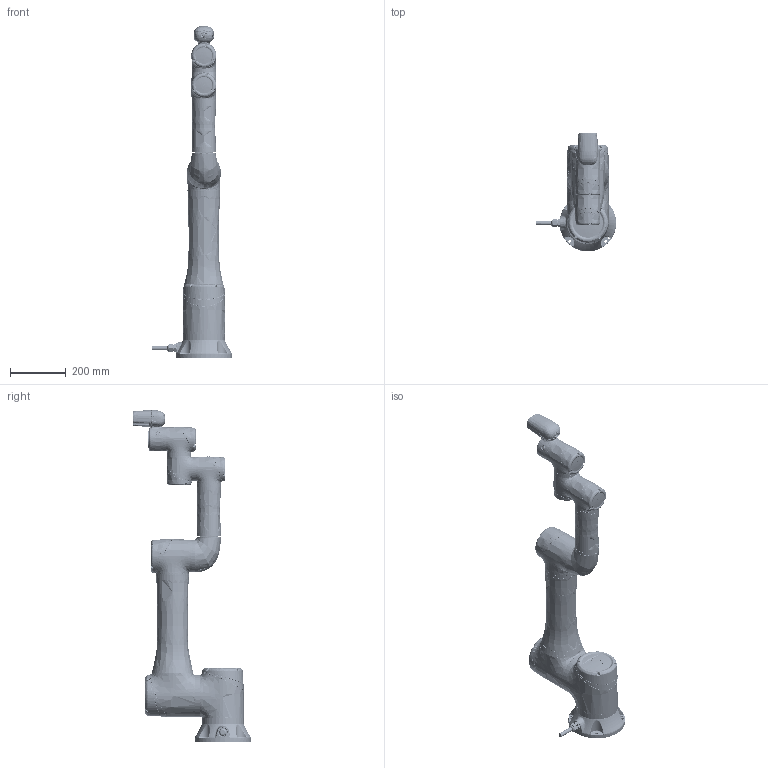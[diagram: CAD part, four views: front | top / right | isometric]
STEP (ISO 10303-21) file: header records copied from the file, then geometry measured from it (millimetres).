
FILE_DESCRIPTION(/* description */ (''),/* implementation_level */ '2;1');
FILE_NAME(/* name */ 'Robot arm_TM16_HW3.2_3D v2.step',/* time_stamp */ '2023-04-18T15:49:59+02:00',/* author */ (''),/* organization */ (''),/* preprocessor_version */ 'ST-DEVELOPER v19.2',/* originating_system */ 'Autodesk Translation Framework v12.4.0.73',/* authorisation */ '');
FILE_SCHEMA (('AUTOMOTIVE_DESIGN { 1 0 10303 214 3 1 1 }'));
Products named in the file (9): Robot arm_TM16_HW3.2_3D; BASE-TM16; J700-TM16; ARM1-TM16; J400-TM16; JOINT_L; ARM2-TM16; J100-TM16; IO-TM16
Assembly tree (11 placements, depth 2):
  Robot arm_TM16_HW3.2_3D
    BASE-TM16
    J700-TM16  x2
    ARM1-TM16
    J400-TM16
    JOINT_L
    ARM2-TM16
    J100-TM16  x3
    IO-TM16
Bounding box: 287.26 x 422.8 x 1187.56 mm (x, y, z)
Volume: 9874998.3 mm3; surface area: 1841519 mm2
Topology: 17 solids, 45 shells, 7069 faces, 17429 edges, 10981 vertices
Faces by surface type: bspline 2551, cylinder 1957, plane 1905, cone 348, torus 282, sphere 26
Full cylindrical faces by diameter (mm): 2 x7, 2.5 x69, 3 x27, 3.4 x8, 3.5 x56, 4.2 x8, 4.5 x24, 5 x10, 5.1 x20, 5.25 x4, 5.5 x71, 5.9 x48, 6 x17, 6.7 x1, 7 x1, 7.3 x4, 7.5 x17, 8 x5, 8.2 x1, 8.5 x4, 9 x4, 9.5 x32, 10 x7, 10.5 x4, 12 x3, 12.3 x3, 14 x2, 14.2 x1, 15 x3, 17.1 x1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
Entity records: 388662 total; most frequent: CARTESIAN_POINT 283129, ORIENTED_EDGE 24232, DIRECTION 18050, EDGE_CURVE 12116, VERTEX_POINT 7696, AXIS2_PLACEMENT_3D 7136, EDGE_LOOP 5516, FACE_OUTER_BOUND 4898
